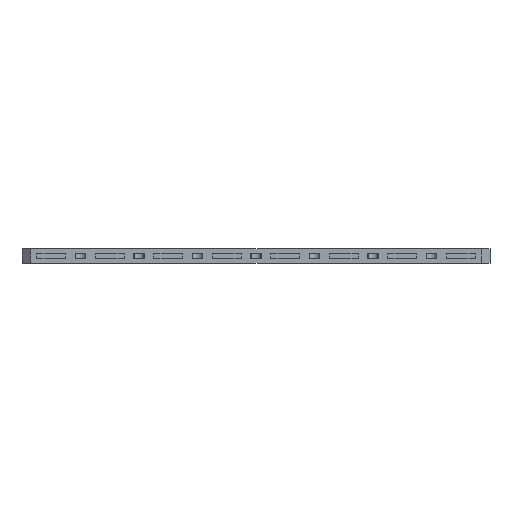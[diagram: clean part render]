
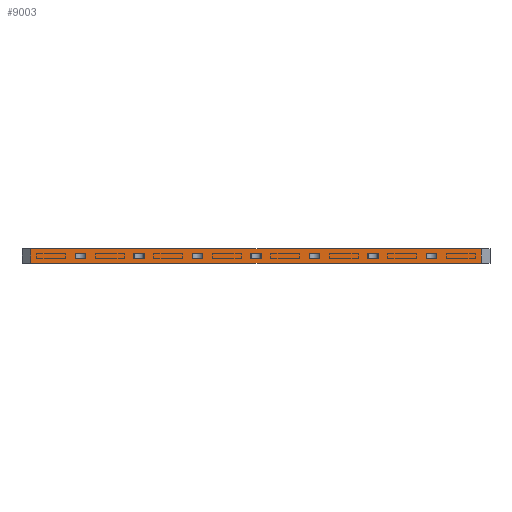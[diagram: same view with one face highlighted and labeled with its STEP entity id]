
A CAD part, left-side view. The second image highlights one B-rep face of the part: STEP entity #9003.
In plain terms, the highlighted planar face has unit normal (-1, 0, 0).
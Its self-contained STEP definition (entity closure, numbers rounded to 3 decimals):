
#79 = EDGE_CURVE('',#80,#82,#84,.T.);
#80 = VERTEX_POINT('',#81);
#81 = CARTESIAN_POINT('',(294.,-466.2,0.));
#82 = VERTEX_POINT('',#83);
#83 = CARTESIAN_POINT('',(294.,-681.8,0.));
#84 = LINE('',#85,#86);
#85 = CARTESIAN_POINT('',(294.,-466.2,0.));
#86 = VECTOR('',#87,1.);
#87 = DIRECTION('',(-0.,-1.,-0.));
#4557 = VERTEX_POINT('',#4558);
#4558 = CARTESIAN_POINT('',(294.,-466.2,6.8));
#4564 = EDGE_CURVE('',#4557,#4565,#4567,.T.);
#4565 = VERTEX_POINT('',#4566);
#4566 = CARTESIAN_POINT('',(294.,-681.8,6.8));
#4567 = LINE('',#4568,#4569);
#4568 = CARTESIAN_POINT('',(294.,-466.2,6.8));
#4569 = VECTOR('',#4570,1.);
#4570 = DIRECTION('',(-0.,-1.,-0.));
#9003 = ADVANCED_FACE('',(#9004,#9038,#9054,#9088,#9122,#9156,#9190,
    #9224),#9258,.F.);
#9004 = FACE_BOUND('',#9005,.T.);
#9005 = EDGE_LOOP('',(#9006,#9016,#9024,#9032));
#9006 = ORIENTED_EDGE('',*,*,#9007,.T.);
#9007 = EDGE_CURVE('',#9008,#9010,#9012,.T.);
#9008 = VERTEX_POINT('',#9009);
#9009 = CARTESIAN_POINT('',(294.,-487.433,4.6));
#9010 = VERTEX_POINT('',#9011);
#9011 = CARTESIAN_POINT('',(294.,-492.567,4.6));
#9012 = LINE('',#9013,#9014);
#9013 = CARTESIAN_POINT('',(294.,-487.433,4.6));
#9014 = VECTOR('',#9015,1.);
#9015 = DIRECTION('',(-0.,-1.,-0.));
#9016 = ORIENTED_EDGE('',*,*,#9017,.F.);
#9017 = EDGE_CURVE('',#9018,#9010,#9020,.T.);
#9018 = VERTEX_POINT('',#9019);
#9019 = CARTESIAN_POINT('',(294.,-492.567,2.2));
#9020 = LINE('',#9021,#9022);
#9021 = CARTESIAN_POINT('',(294.,-492.567,2.2));
#9022 = VECTOR('',#9023,1.);
#9023 = DIRECTION('',(0.,0.,1.));
#9024 = ORIENTED_EDGE('',*,*,#9025,.F.);
#9025 = EDGE_CURVE('',#9026,#9018,#9028,.T.);
#9026 = VERTEX_POINT('',#9027);
#9027 = CARTESIAN_POINT('',(294.,-487.433,2.2));
#9028 = LINE('',#9029,#9030);
#9029 = CARTESIAN_POINT('',(294.,-487.433,2.2));
#9030 = VECTOR('',#9031,1.);
#9031 = DIRECTION('',(0.,-1.,0.));
#9032 = ORIENTED_EDGE('',*,*,#9033,.F.);
#9033 = EDGE_CURVE('',#9008,#9026,#9034,.T.);
#9034 = LINE('',#9035,#9036);
#9035 = CARTESIAN_POINT('',(294.,-487.433,4.6));
#9036 = VECTOR('',#9037,1.);
#9037 = DIRECTION('',(0.,0.,-1.));
#9038 = FACE_BOUND('',#9039,.T.);
#9039 = EDGE_LOOP('',(#9040,#9046,#9047,#9053));
#9040 = ORIENTED_EDGE('',*,*,#9041,.T.);
#9041 = EDGE_CURVE('',#82,#4565,#9042,.T.);
#9042 = LINE('',#9043,#9044);
#9043 = CARTESIAN_POINT('',(294.,-681.8,0.));
#9044 = VECTOR('',#9045,1.);
#9045 = DIRECTION('',(0.,0.,1.));
#9046 = ORIENTED_EDGE('',*,*,#4564,.F.);
#9047 = ORIENTED_EDGE('',*,*,#9048,.T.);
#9048 = EDGE_CURVE('',#4557,#80,#9049,.T.);
#9049 = LINE('',#9050,#9051);
#9050 = CARTESIAN_POINT('',(294.,-466.2,6.8));
#9051 = VECTOR('',#9052,1.);
#9052 = DIRECTION('',(0.,0.,-1.));
#9053 = ORIENTED_EDGE('',*,*,#79,.T.);
#9054 = FACE_BOUND('',#9055,.T.);
#9055 = EDGE_LOOP('',(#9056,#9066,#9074,#9082));
#9056 = ORIENTED_EDGE('',*,*,#9057,.T.);
#9057 = EDGE_CURVE('',#9058,#9060,#9062,.T.);
#9058 = VERTEX_POINT('',#9059);
#9059 = CARTESIAN_POINT('',(294.,-515.433,4.6));
#9060 = VERTEX_POINT('',#9061);
#9061 = CARTESIAN_POINT('',(294.,-520.567,4.6));
#9062 = LINE('',#9063,#9064);
#9063 = CARTESIAN_POINT('',(294.,-515.433,4.6));
#9064 = VECTOR('',#9065,1.);
#9065 = DIRECTION('',(-0.,-1.,-0.));
#9066 = ORIENTED_EDGE('',*,*,#9067,.F.);
#9067 = EDGE_CURVE('',#9068,#9060,#9070,.T.);
#9068 = VERTEX_POINT('',#9069);
#9069 = CARTESIAN_POINT('',(294.,-520.567,2.2));
#9070 = LINE('',#9071,#9072);
#9071 = CARTESIAN_POINT('',(294.,-520.567,2.2));
#9072 = VECTOR('',#9073,1.);
#9073 = DIRECTION('',(0.,0.,1.));
#9074 = ORIENTED_EDGE('',*,*,#9075,.F.);
#9075 = EDGE_CURVE('',#9076,#9068,#9078,.T.);
#9076 = VERTEX_POINT('',#9077);
#9077 = CARTESIAN_POINT('',(294.,-515.433,2.2));
#9078 = LINE('',#9079,#9080);
#9079 = CARTESIAN_POINT('',(294.,-515.433,2.2));
#9080 = VECTOR('',#9081,1.);
#9081 = DIRECTION('',(0.,-1.,0.));
#9082 = ORIENTED_EDGE('',*,*,#9083,.F.);
#9083 = EDGE_CURVE('',#9058,#9076,#9084,.T.);
#9084 = LINE('',#9085,#9086);
#9085 = CARTESIAN_POINT('',(294.,-515.433,4.6));
#9086 = VECTOR('',#9087,1.);
#9087 = DIRECTION('',(0.,0.,-1.));
#9088 = FACE_BOUND('',#9089,.T.);
#9089 = EDGE_LOOP('',(#9090,#9100,#9108,#9116));
#9090 = ORIENTED_EDGE('',*,*,#9091,.T.);
#9091 = EDGE_CURVE('',#9092,#9094,#9096,.T.);
#9092 = VERTEX_POINT('',#9093);
#9093 = CARTESIAN_POINT('',(294.,-543.433,4.6));
#9094 = VERTEX_POINT('',#9095);
#9095 = CARTESIAN_POINT('',(294.,-548.567,4.6));
#9096 = LINE('',#9097,#9098);
#9097 = CARTESIAN_POINT('',(294.,-543.433,4.6));
#9098 = VECTOR('',#9099,1.);
#9099 = DIRECTION('',(-0.,-1.,-0.));
#9100 = ORIENTED_EDGE('',*,*,#9101,.F.);
#9101 = EDGE_CURVE('',#9102,#9094,#9104,.T.);
#9102 = VERTEX_POINT('',#9103);
#9103 = CARTESIAN_POINT('',(294.,-548.567,2.2));
#9104 = LINE('',#9105,#9106);
#9105 = CARTESIAN_POINT('',(294.,-548.567,2.2));
#9106 = VECTOR('',#9107,1.);
#9107 = DIRECTION('',(0.,0.,1.));
#9108 = ORIENTED_EDGE('',*,*,#9109,.F.);
#9109 = EDGE_CURVE('',#9110,#9102,#9112,.T.);
#9110 = VERTEX_POINT('',#9111);
#9111 = CARTESIAN_POINT('',(294.,-543.433,2.2));
#9112 = LINE('',#9113,#9114);
#9113 = CARTESIAN_POINT('',(294.,-543.433,2.2));
#9114 = VECTOR('',#9115,1.);
#9115 = DIRECTION('',(0.,-1.,0.));
#9116 = ORIENTED_EDGE('',*,*,#9117,.F.);
#9117 = EDGE_CURVE('',#9092,#9110,#9118,.T.);
#9118 = LINE('',#9119,#9120);
#9119 = CARTESIAN_POINT('',(294.,-543.433,4.6));
#9120 = VECTOR('',#9121,1.);
#9121 = DIRECTION('',(0.,0.,-1.));
#9122 = FACE_BOUND('',#9123,.T.);
#9123 = EDGE_LOOP('',(#9124,#9134,#9142,#9150));
#9124 = ORIENTED_EDGE('',*,*,#9125,.T.);
#9125 = EDGE_CURVE('',#9126,#9128,#9130,.T.);
#9126 = VERTEX_POINT('',#9127);
#9127 = CARTESIAN_POINT('',(294.,-571.433,4.6));
#9128 = VERTEX_POINT('',#9129);
#9129 = CARTESIAN_POINT('',(294.,-576.567,4.6));
#9130 = LINE('',#9131,#9132);
#9131 = CARTESIAN_POINT('',(294.,-571.433,4.6));
#9132 = VECTOR('',#9133,1.);
#9133 = DIRECTION('',(-0.,-1.,-0.));
#9134 = ORIENTED_EDGE('',*,*,#9135,.F.);
#9135 = EDGE_CURVE('',#9136,#9128,#9138,.T.);
#9136 = VERTEX_POINT('',#9137);
#9137 = CARTESIAN_POINT('',(294.,-576.567,2.2));
#9138 = LINE('',#9139,#9140);
#9139 = CARTESIAN_POINT('',(294.,-576.567,2.2));
#9140 = VECTOR('',#9141,1.);
#9141 = DIRECTION('',(0.,0.,1.));
#9142 = ORIENTED_EDGE('',*,*,#9143,.F.);
#9143 = EDGE_CURVE('',#9144,#9136,#9146,.T.);
#9144 = VERTEX_POINT('',#9145);
#9145 = CARTESIAN_POINT('',(294.,-571.433,2.2));
#9146 = LINE('',#9147,#9148);
#9147 = CARTESIAN_POINT('',(294.,-571.433,2.2));
#9148 = VECTOR('',#9149,1.);
#9149 = DIRECTION('',(0.,-1.,0.));
#9150 = ORIENTED_EDGE('',*,*,#9151,.F.);
#9151 = EDGE_CURVE('',#9126,#9144,#9152,.T.);
#9152 = LINE('',#9153,#9154);
#9153 = CARTESIAN_POINT('',(294.,-571.433,4.6));
#9154 = VECTOR('',#9155,1.);
#9155 = DIRECTION('',(0.,0.,-1.));
#9156 = FACE_BOUND('',#9157,.T.);
#9157 = EDGE_LOOP('',(#9158,#9168,#9176,#9184));
#9158 = ORIENTED_EDGE('',*,*,#9159,.F.);
#9159 = EDGE_CURVE('',#9160,#9162,#9164,.T.);
#9160 = VERTEX_POINT('',#9161);
#9161 = CARTESIAN_POINT('',(294.,-655.433,4.6));
#9162 = VERTEX_POINT('',#9163);
#9163 = CARTESIAN_POINT('',(294.,-655.433,2.2));
#9164 = LINE('',#9165,#9166);
#9165 = CARTESIAN_POINT('',(294.,-655.433,4.6));
#9166 = VECTOR('',#9167,1.);
#9167 = DIRECTION('',(0.,0.,-1.));
#9168 = ORIENTED_EDGE('',*,*,#9169,.T.);
#9169 = EDGE_CURVE('',#9160,#9170,#9172,.T.);
#9170 = VERTEX_POINT('',#9171);
#9171 = CARTESIAN_POINT('',(294.,-660.567,4.6));
#9172 = LINE('',#9173,#9174);
#9173 = CARTESIAN_POINT('',(294.,-655.433,4.6));
#9174 = VECTOR('',#9175,1.);
#9175 = DIRECTION('',(-0.,-1.,-0.));
#9176 = ORIENTED_EDGE('',*,*,#9177,.F.);
#9177 = EDGE_CURVE('',#9178,#9170,#9180,.T.);
#9178 = VERTEX_POINT('',#9179);
#9179 = CARTESIAN_POINT('',(294.,-660.567,2.2));
#9180 = LINE('',#9181,#9182);
#9181 = CARTESIAN_POINT('',(294.,-660.567,2.2));
#9182 = VECTOR('',#9183,1.);
#9183 = DIRECTION('',(0.,0.,1.));
#9184 = ORIENTED_EDGE('',*,*,#9185,.F.);
#9185 = EDGE_CURVE('',#9162,#9178,#9186,.T.);
#9186 = LINE('',#9187,#9188);
#9187 = CARTESIAN_POINT('',(294.,-655.433,2.2));
#9188 = VECTOR('',#9189,1.);
#9189 = DIRECTION('',(0.,-1.,0.));
#9190 = FACE_BOUND('',#9191,.T.);
#9191 = EDGE_LOOP('',(#9192,#9202,#9210,#9218));
#9192 = ORIENTED_EDGE('',*,*,#9193,.T.);
#9193 = EDGE_CURVE('',#9194,#9196,#9198,.T.);
#9194 = VERTEX_POINT('',#9195);
#9195 = CARTESIAN_POINT('',(294.,-599.433,4.6));
#9196 = VERTEX_POINT('',#9197);
#9197 = CARTESIAN_POINT('',(294.,-604.567,4.6));
#9198 = LINE('',#9199,#9200);
#9199 = CARTESIAN_POINT('',(294.,-599.433,4.6));
#9200 = VECTOR('',#9201,1.);
#9201 = DIRECTION('',(-0.,-1.,-0.));
#9202 = ORIENTED_EDGE('',*,*,#9203,.F.);
#9203 = EDGE_CURVE('',#9204,#9196,#9206,.T.);
#9204 = VERTEX_POINT('',#9205);
#9205 = CARTESIAN_POINT('',(294.,-604.567,2.2));
#9206 = LINE('',#9207,#9208);
#9207 = CARTESIAN_POINT('',(294.,-604.567,2.2));
#9208 = VECTOR('',#9209,1.);
#9209 = DIRECTION('',(0.,0.,1.));
#9210 = ORIENTED_EDGE('',*,*,#9211,.F.);
#9211 = EDGE_CURVE('',#9212,#9204,#9214,.T.);
#9212 = VERTEX_POINT('',#9213);
#9213 = CARTESIAN_POINT('',(294.,-599.433,2.2));
#9214 = LINE('',#9215,#9216);
#9215 = CARTESIAN_POINT('',(294.,-599.433,2.2));
#9216 = VECTOR('',#9217,1.);
#9217 = DIRECTION('',(0.,-1.,0.));
#9218 = ORIENTED_EDGE('',*,*,#9219,.F.);
#9219 = EDGE_CURVE('',#9194,#9212,#9220,.T.);
#9220 = LINE('',#9221,#9222);
#9221 = CARTESIAN_POINT('',(294.,-599.433,4.6));
#9222 = VECTOR('',#9223,1.);
#9223 = DIRECTION('',(0.,0.,-1.));
#9224 = FACE_BOUND('',#9225,.T.);
#9225 = EDGE_LOOP('',(#9226,#9236,#9244,#9252));
#9226 = ORIENTED_EDGE('',*,*,#9227,.T.);
#9227 = EDGE_CURVE('',#9228,#9230,#9232,.T.);
#9228 = VERTEX_POINT('',#9229);
#9229 = CARTESIAN_POINT('',(294.,-627.433,4.6));
#9230 = VERTEX_POINT('',#9231);
#9231 = CARTESIAN_POINT('',(294.,-632.567,4.6));
#9232 = LINE('',#9233,#9234);
#9233 = CARTESIAN_POINT('',(294.,-627.433,4.6));
#9234 = VECTOR('',#9235,1.);
#9235 = DIRECTION('',(-0.,-1.,-0.));
#9236 = ORIENTED_EDGE('',*,*,#9237,.F.);
#9237 = EDGE_CURVE('',#9238,#9230,#9240,.T.);
#9238 = VERTEX_POINT('',#9239);
#9239 = CARTESIAN_POINT('',(294.,-632.567,2.2));
#9240 = LINE('',#9241,#9242);
#9241 = CARTESIAN_POINT('',(294.,-632.567,2.2));
#9242 = VECTOR('',#9243,1.);
#9243 = DIRECTION('',(0.,0.,1.));
#9244 = ORIENTED_EDGE('',*,*,#9245,.F.);
#9245 = EDGE_CURVE('',#9246,#9238,#9248,.T.);
#9246 = VERTEX_POINT('',#9247);
#9247 = CARTESIAN_POINT('',(294.,-627.433,2.2));
#9248 = LINE('',#9249,#9250);
#9249 = CARTESIAN_POINT('',(294.,-627.433,2.2));
#9250 = VECTOR('',#9251,1.);
#9251 = DIRECTION('',(0.,-1.,0.));
#9252 = ORIENTED_EDGE('',*,*,#9253,.F.);
#9253 = EDGE_CURVE('',#9228,#9246,#9254,.T.);
#9254 = LINE('',#9255,#9256);
#9255 = CARTESIAN_POINT('',(294.,-627.433,4.6));
#9256 = VECTOR('',#9257,1.);
#9257 = DIRECTION('',(0.,0.,-1.));
#9258 = PLANE('',#9259);
#9259 = AXIS2_PLACEMENT_3D('',#9260,#9261,#9262);
#9260 = CARTESIAN_POINT('',(294.,-483.962,6.8));
#9261 = DIRECTION('',(1.,0.,0.));
#9262 = DIRECTION('',(0.,0.,-1.));
